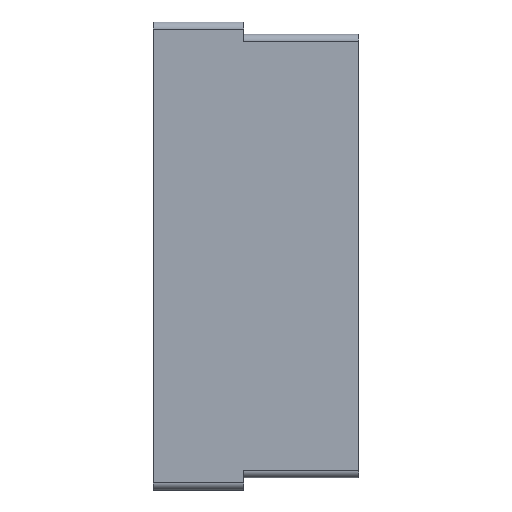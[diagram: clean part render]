
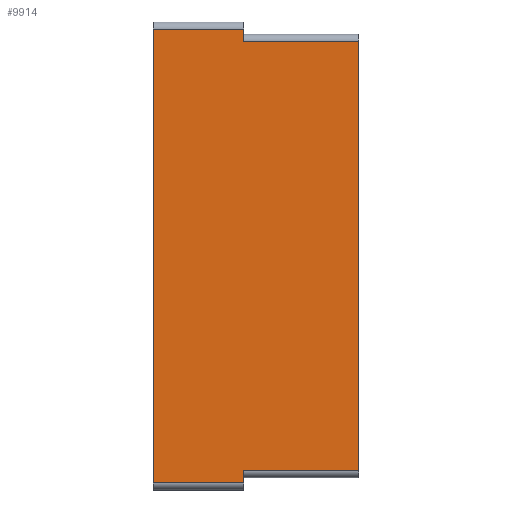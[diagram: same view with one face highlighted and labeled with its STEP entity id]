
A CAD part, left-side view. The second image highlights one B-rep face of the part: STEP entity #9914.
In plain terms, the highlighted planar face has unit normal (-1, 0, 0).
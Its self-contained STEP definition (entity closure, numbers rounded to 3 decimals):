
#9312=CARTESIAN_POINT('Vertex',(0.,0.,-15.75)) ;
#9319=CARTESIAN_POINT('Vertex',(0.,-6.3,-15.75)) ;
#9322=CARTESIAN_POINT('Line Origine',(0.,-7.15,-15.75)) ;
#9343=CARTESIAN_POINT('Vertex',(0.,-6.3,-14.9)) ;
#9359=CARTESIAN_POINT('Vertex',(0.,-14.3,-14.9)) ;
#9362=CARTESIAN_POINT('Line Origine',(0.,-7.15,-14.9)) ;
#9641=CARTESIAN_POINT('Vertex',(0.,0.,15.75)) ;
#9644=CARTESIAN_POINT('Line Origine',(0.,-7.15,15.75)) ;
#9648=CARTESIAN_POINT('Vertex',(0.,-6.3,15.75)) ;
#9668=CARTESIAN_POINT('Line Origine',(0.,-6.3,15.325)) ;
#9672=CARTESIAN_POINT('Vertex',(0.,-6.3,14.9)) ;
#9687=CARTESIAN_POINT('Line Origine',(0.,-6.3,-15.325)) ;
#9740=CARTESIAN_POINT('Line Origine',(0.,-14.3,0.)) ;
#9744=CARTESIAN_POINT('Vertex',(0.,-14.3,14.9)) ;
#9889=CARTESIAN_POINT('Axis2P3D Location',(0.,-14.3,0.)) ;
#9894=CARTESIAN_POINT('Line Origine',(0.,0.,0.)) ;
#9899=CARTESIAN_POINT('Line Origine',(0.,-10.3,14.9)) ;
#9323=DIRECTION('Vector Direction',(0.,-1.,0.)) ;
#9363=DIRECTION('Vector Direction',(0.,-1.,0.)) ;
#9645=DIRECTION('Vector Direction',(0.,-1.,0.)) ;
#9669=DIRECTION('Vector Direction',(0.,0.,1.)) ;
#9688=DIRECTION('Vector Direction',(0.,0.,1.)) ;
#9741=DIRECTION('Vector Direction',(0.,0.,-1.)) ;
#9890=DIRECTION('Axis2P3D Direction',(-1.,0.,0.)) ;
#9891=DIRECTION('Axis2P3D XDirection',(0.,1.,0.)) ;
#9895=DIRECTION('Vector Direction',(0.,0.,-1.)) ;
#9900=DIRECTION('Vector Direction',(0.,-1.,0.)) ;
#9892=AXIS2_PLACEMENT_3D('Plane Axis2P3D',#9889,#9890,#9891) ;
#9905=ORIENTED_EDGE('',*,*,#9674,.F.) ;
#9906=ORIENTED_EDGE('',*,*,#9650,.T.) ;
#9907=ORIENTED_EDGE('',*,*,#9898,.T.) ;
#9908=ORIENTED_EDGE('',*,*,#9326,.F.) ;
#9909=ORIENTED_EDGE('',*,*,#9691,.F.) ;
#9910=ORIENTED_EDGE('',*,*,#9366,.F.) ;
#9911=ORIENTED_EDGE('',*,*,#9746,.F.) ;
#9912=ORIENTED_EDGE('',*,*,#9903,.T.) ;
#9324=VECTOR('Line Direction',#9323,1.) ;
#9364=VECTOR('Line Direction',#9363,1.) ;
#9646=VECTOR('Line Direction',#9645,1.) ;
#9670=VECTOR('Line Direction',#9669,1.) ;
#9689=VECTOR('Line Direction',#9688,1.) ;
#9742=VECTOR('Line Direction',#9741,1.) ;
#9896=VECTOR('Line Direction',#9895,1.) ;
#9901=VECTOR('Line Direction',#9900,1.) ;
#9914=ADVANCED_FACE('\X2\96F64EF651E04F554F53\X0\',(#9913),#9893,.T.) ;
#9326=EDGE_CURVE('',#9320,#9313,#9325,.F.) ;
#9366=EDGE_CURVE('',#9360,#9344,#9365,.F.) ;
#9650=EDGE_CURVE('',#9649,#9642,#9647,.F.) ;
#9674=EDGE_CURVE('',#9649,#9673,#9671,.F.) ;
#9691=EDGE_CURVE('',#9344,#9320,#9690,.F.) ;
#9746=EDGE_CURVE('',#9745,#9360,#9743,.T.) ;
#9898=EDGE_CURVE('',#9642,#9313,#9897,.T.) ;
#9903=EDGE_CURVE('',#9745,#9673,#9902,.F.) ;
#9904=EDGE_LOOP('',(#9905,#9906,#9907,#9908,#9909,#9910,#9911,#9912)) ;
#9913=FACE_OUTER_BOUND('',#9904,.T.) ;
#9325=LINE('Line',#9322,#9324) ;
#9365=LINE('Line',#9362,#9364) ;
#9647=LINE('Line',#9644,#9646) ;
#9671=LINE('Line',#9668,#9670) ;
#9690=LINE('Line',#9687,#9689) ;
#9743=LINE('Line',#9740,#9742) ;
#9897=LINE('Line',#9894,#9896) ;
#9902=LINE('Line',#9899,#9901) ;
#9893=PLANE('Plane',#9892) ;
#9313=VERTEX_POINT('',#9312) ;
#9320=VERTEX_POINT('',#9319) ;
#9344=VERTEX_POINT('',#9343) ;
#9360=VERTEX_POINT('',#9359) ;
#9642=VERTEX_POINT('',#9641) ;
#9649=VERTEX_POINT('',#9648) ;
#9673=VERTEX_POINT('',#9672) ;
#9745=VERTEX_POINT('',#9744) ;
